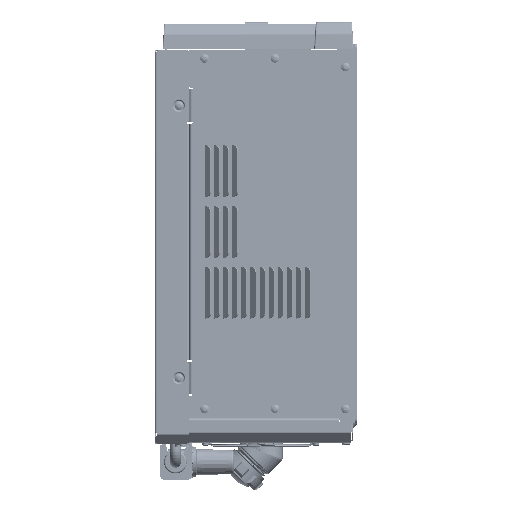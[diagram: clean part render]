
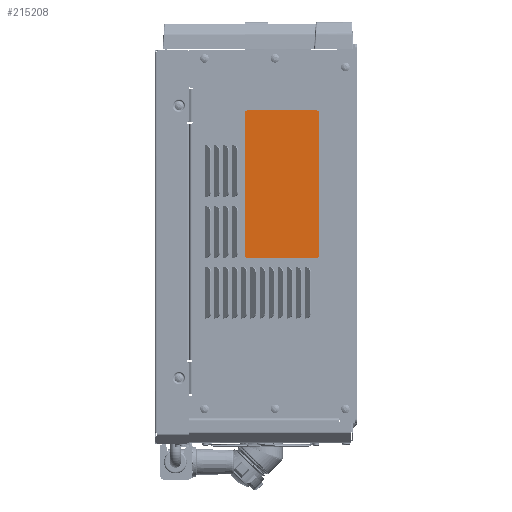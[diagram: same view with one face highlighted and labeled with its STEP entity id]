
A CAD part, left-side view. The second image highlights one B-rep face of the part: STEP entity #215208.
In plain terms, the highlighted planar face has unit normal (-1, 0, 0) as drawn and (0, 0, 1) by its records, which use the part's own axes.
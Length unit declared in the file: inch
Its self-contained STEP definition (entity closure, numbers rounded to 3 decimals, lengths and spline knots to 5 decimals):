
#198 = VERTEX_POINT ( 'NONE', #37026 ) ;
#3084 = EDGE_CURVE ( 'NONE', #129364, #155414, #104869, .T. ) ;
#3139 = CARTESIAN_POINT ( 'NONE',  ( -4.25, 2., 0.01 ) ) ;
#6452 = CIRCLE ( 'NONE', #128340, 0.125 ) ;
#8502 = EDGE_CURVE ( 'NONE', #23693, #101788, #110807, .T. ) ;
#10758 = DIRECTION ( 'NONE',  ( 0., 0., 1. ) ) ;
#14916 = CARTESIAN_POINT ( 'NONE',  ( 4.125, -2.125, 0.01 ) ) ;
#19472 = CARTESIAN_POINT ( 'NONE',  ( -4.125, -2.125, 0.01 ) ) ;
#23693 = VERTEX_POINT ( 'NONE', #19472 ) ;
#33927 = AXIS2_PLACEMENT_3D ( 'NONE', #190178, #90894, #97362 ) ;
#37026 = CARTESIAN_POINT ( 'NONE',  ( 4.25, 2., 0.01 ) ) ;
#41495 = CARTESIAN_POINT ( 'NONE',  ( 4.25, 2.125, 0.01 ) ) ;
#44406 = VECTOR ( 'NONE', #171415, 39.37008 ) ;
#46443 = DIRECTION ( 'NONE',  ( 1., 0., 0. ) ) ;
#48072 = ORIENTED_EDGE ( 'NONE', *, *, #169896, .T. ) ;
#50847 = CARTESIAN_POINT ( 'NONE',  ( -4.125, 2., 0.01 ) ) ;
#52405 = VERTEX_POINT ( 'NONE', #152821 ) ;
#57116 = FACE_OUTER_BOUND ( 'NONE', #175173, .T. ) ;
#58506 = CARTESIAN_POINT ( 'NONE',  ( 4.125, -2., 0.01 ) ) ;
#69411 = VECTOR ( 'NONE', #132522, 39.37008 ) ;
#70358 = CIRCLE ( 'NONE', #153832, 0.125 ) ;
#76549 = EDGE_CURVE ( 'NONE', #52405, #23693, #6452, .T. ) ;
#77276 = DIRECTION ( 'NONE',  ( 1., 0., 0. ) ) ;
#81240 = CARTESIAN_POINT ( 'NONE',  ( -4.25, 2.125, 0.01 ) ) ;
#85002 = ORIENTED_EDGE ( 'NONE', *, *, #76549, .T. ) ;
#87099 = ORIENTED_EDGE ( 'NONE', *, *, #190030, .T. ) ;
#90894 = DIRECTION ( 'NONE',  ( 0., 0., 1. ) ) ;
#92717 = LINE ( 'NONE', #41495, #153856 ) ;
#93113 = VERTEX_POINT ( 'NONE', #3139 ) ;
#93650 = CARTESIAN_POINT ( 'NONE',  ( -4.125, -2., 0.01 ) ) ;
#97362 = DIRECTION ( 'NONE',  ( 1., 0., 0. ) ) ;
#97900 = ORIENTED_EDGE ( 'NONE', *, *, #136853, .T. ) ;
#101788 = VERTEX_POINT ( 'NONE', #14916 ) ;
#104869 = LINE ( 'NONE', #205234, #44406 ) ;
#106958 = DIRECTION ( 'NONE',  ( 0., 1., 0. ) ) ;
#109246 = CARTESIAN_POINT ( 'NONE',  ( 4.125, 2.125, 0.01 ) ) ;
#109363 = AXIS2_PLACEMENT_3D ( 'NONE', #137466, #171209, #154865 ) ;
#110807 = LINE ( 'NONE', #111869, #140054 ) ;
#111869 = CARTESIAN_POINT ( 'NONE',  ( -4.25, -2.125, 0.01 ) ) ;
#121692 = CARTESIAN_POINT ( 'NONE',  ( -4.125, 2.125, 0.01 ) ) ;
#123691 = PLANE ( 'NONE',  #33927 ) ;
#128340 = AXIS2_PLACEMENT_3D ( 'NONE', #93650, #10758, #77276 ) ;
#129364 = VERTEX_POINT ( 'NONE', #109246 ) ;
#132522 = DIRECTION ( 'NONE',  ( 0., -1., 0. ) ) ;
#136853 = EDGE_CURVE ( 'NONE', #212390, #198, #92717, .T. ) ;
#137466 = CARTESIAN_POINT ( 'NONE',  ( 4.125, 2., 0.01 ) ) ;
#138881 = ORIENTED_EDGE ( 'NONE', *, *, #8502, .T. ) ;
#139291 = DIRECTION ( 'NONE',  ( 0., 0., 1. ) ) ;
#139772 = ORIENTED_EDGE ( 'NONE', *, *, #178432, .T. ) ;
#140054 = VECTOR ( 'NONE', #46443, 39.37008 ) ;
#147736 = CIRCLE ( 'NONE', #109363, 0.125 ) ;
#152821 = CARTESIAN_POINT ( 'NONE',  ( -4.25, -2., 0.01 ) ) ;
#153377 = ORIENTED_EDGE ( 'NONE', *, *, #164830, .T. ) ;
#153832 = AXIS2_PLACEMENT_3D ( 'NONE', #50847, #188184, #175037 ) ;
#153856 = VECTOR ( 'NONE', #106958, 39.37008 ) ;
#154865 = DIRECTION ( 'NONE',  ( 1., 0., 0. ) ) ;
#155414 = VERTEX_POINT ( 'NONE', #121692 ) ;
#156717 = DIRECTION ( 'NONE',  ( 1., 0., 0. ) ) ;
#164145 = LINE ( 'NONE', #81240, #69411 ) ;
#164830 = EDGE_CURVE ( 'NONE', #93113, #52405, #164145, .T. ) ;
#169896 = EDGE_CURVE ( 'NONE', #101788, #212390, #189255, .T. ) ;
#171209 = DIRECTION ( 'NONE',  ( 0., 0., 1. ) ) ;
#171415 = DIRECTION ( 'NONE',  ( -1., 0., 0. ) ) ;
#171693 = CARTESIAN_POINT ( 'NONE',  ( 4.25, -2., 0.01 ) ) ;
#175037 = DIRECTION ( 'NONE',  ( 1., 0., 0. ) ) ;
#175173 = EDGE_LOOP ( 'NONE', ( #138881, #48072, #97900, #139772, #182662, #87099, #153377, #85002 ) ) ;
#178432 = EDGE_CURVE ( 'NONE', #198, #129364, #147736, .T. ) ;
#182662 = ORIENTED_EDGE ( 'NONE', *, *, #3084, .T. ) ;
#188184 = DIRECTION ( 'NONE',  ( 0., 0., 1. ) ) ;
#189255 = CIRCLE ( 'NONE', #210257, 0.125 ) ;
#190030 = EDGE_CURVE ( 'NONE', #155414, #93113, #70358, .T. ) ;
#190178 = CARTESIAN_POINT ( 'NONE',  ( 0., 0., 0.01 ) ) ;
#205234 = CARTESIAN_POINT ( 'NONE',  ( -4.25, 2.125, 0.01 ) ) ;
#210257 = AXIS2_PLACEMENT_3D ( 'NONE', #58506, #139291, #156717 ) ;
#212390 = VERTEX_POINT ( 'NONE', #171693 ) ;
#215208 = ADVANCED_FACE ( 'NONE', ( #57116 ), #123691, .T. ) ;
